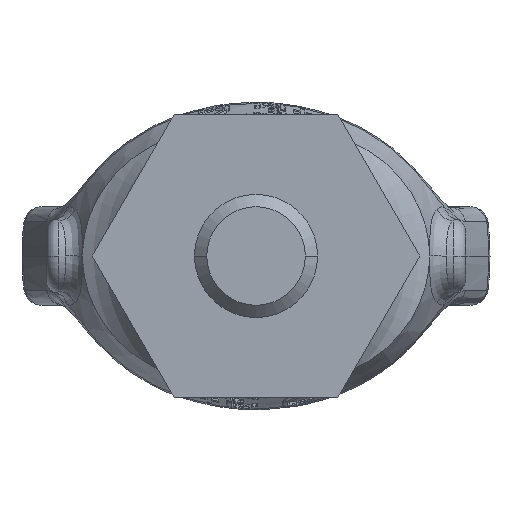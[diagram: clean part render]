
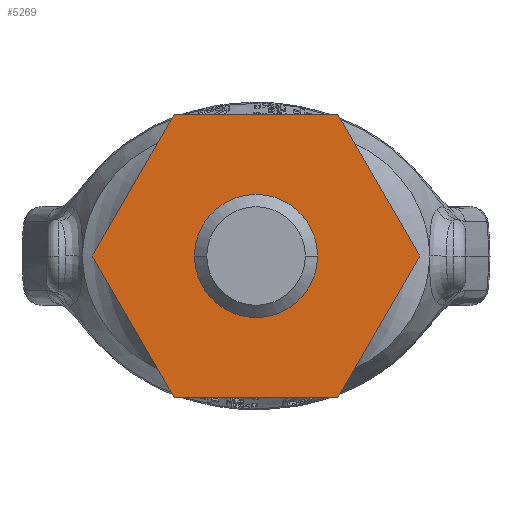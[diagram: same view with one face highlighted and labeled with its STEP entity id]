
A CAD part, front view. The second image highlights one B-rep face of the part: STEP entity #5269.
In plain terms, the highlighted planar face has unit normal (0, -1, 0).
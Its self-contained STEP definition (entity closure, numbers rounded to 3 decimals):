
#1158=DIRECTION('',(1.,0.,0.));
#1159=VECTOR('',#1158,26.558);
#1160=CARTESIAN_POINT('',(-13.279,-100.,-23.));
#1161=LINE('46',#1160,#1159);
#1162=DIRECTION('',(0.5,0.,-0.866));
#1163=VECTOR('',#1162,26.558);
#1164=CARTESIAN_POINT('',(-26.558,-100.,0.));
#1165=LINE('47',#1164,#1163);
#1166=DIRECTION('',(-0.5,0.,-0.866));
#1167=VECTOR('',#1166,26.558);
#1168=CARTESIAN_POINT('',(-13.279,-100.,23.));
#1169=LINE('48',#1168,#1167);
#1170=DIRECTION('',(-1.,0.,0.));
#1171=VECTOR('',#1170,26.558);
#1172=CARTESIAN_POINT('',(13.279,-100.,23.));
#1173=LINE('49',#1172,#1171);
#1174=DIRECTION('',(-0.5,0.,0.866));
#1175=VECTOR('',#1174,26.558);
#1176=CARTESIAN_POINT('',(26.558,-100.,0.));
#1177=LINE('50',#1176,#1175);
#1178=DIRECTION('',(0.5,0.,0.866));
#1179=VECTOR('',#1178,26.558);
#1180=CARTESIAN_POINT('',(13.279,-100.,-23.));
#1181=LINE('51',#1180,#1179);
#1182=CARTESIAN_POINT('',(0.,-100.,0.));
#1183=DIRECTION('',(0.,-1.,0.));
#1184=DIRECTION('',(-1.,0.,0.));
#1185=AXIS2_PLACEMENT_3D('',#1182,#1183,#1184);
#1187=CARTESIAN_POINT('',(0.,-100.,0.));
#1188=DIRECTION('',(0.,-1.,0.));
#1189=DIRECTION('',(1.,0.,0.));
#1190=AXIS2_PLACEMENT_3D('',#1187,#1188,#1189);
#3428=CARTESIAN_POINT('',(-13.279,-100.,-23.));
#3429=CARTESIAN_POINT('',(13.279,-100.,-23.));
#3430=VERTEX_POINT('',#3428);
#3431=VERTEX_POINT('',#3429);
#3432=CARTESIAN_POINT('',(-26.558,-100.,0.));
#3433=VERTEX_POINT('',#3432);
#3434=CARTESIAN_POINT('',(-13.279,-100.,23.));
#3435=VERTEX_POINT('',#3434);
#3436=CARTESIAN_POINT('',(13.279,-100.,23.));
#3437=VERTEX_POINT('',#3436);
#3438=CARTESIAN_POINT('',(26.558,-100.,0.));
#3439=VERTEX_POINT('',#3438);
#4534=CARTESIAN_POINT('',(-10.,-100.,0.));
#4535=CARTESIAN_POINT('',(10.,-100.,0.));
#4536=VERTEX_POINT('',#4534);
#4537=VERTEX_POINT('',#4535);
#5250=CARTESIAN_POINT('',(0.,-100.,0.));
#5251=DIRECTION('',(0.,1.,0.));
#5252=DIRECTION('',(1.,0.,0.));
#5253=AXIS2_PLACEMENT_3D('',#5250,#5251,#5252);
#5254=PLANE('45',#5253);
#5255=ORIENTED_EDGE('46',*,*,#4572,.F.);
#5256=ORIENTED_EDGE('47',*,*,#4847,.F.);
#5257=ORIENTED_EDGE('48',*,*,#4861,.F.);
#5258=ORIENTED_EDGE('49',*,*,#4875,.F.);
#5259=ORIENTED_EDGE('50',*,*,#5231,.F.);
#5260=ORIENTED_EDGE('51',*,*,#5244,.F.);
#5261=EDGE_LOOP('45',(#5255,#5256,#5257,#5258,#5259,#5260));
#5262=FACE_OUTER_BOUND('45',#5261,.F.);
#5264=ORIENTED_EDGE('27379',*,*,#5263,.T.);
#5266=ORIENTED_EDGE('27380',*,*,#5265,.T.);
#5267=EDGE_LOOP('45',(#5264,#5266));
#5268=FACE_BOUND('45',#5267,.F.);
#1186=CIRCLE('27379',#1185,10.);
#1191=CIRCLE('27380',#1190,10.);
#4572=EDGE_CURVE('46',#3430,#3431,#1161,.T.);
#4847=EDGE_CURVE('47',#3433,#3430,#1165,.T.);
#4861=EDGE_CURVE('48',#3435,#3433,#1169,.T.);
#4875=EDGE_CURVE('49',#3437,#3435,#1173,.T.);
#5231=EDGE_CURVE('50',#3439,#3437,#1177,.T.);
#5244=EDGE_CURVE('51',#3431,#3439,#1181,.T.);
#5263=EDGE_CURVE('27379',#4536,#4537,#1186,.T.);
#5265=EDGE_CURVE('27380',#4537,#4536,#1191,.T.);
#5269=ADVANCED_FACE('45',(#5262,#5268),#5254,.F.);
